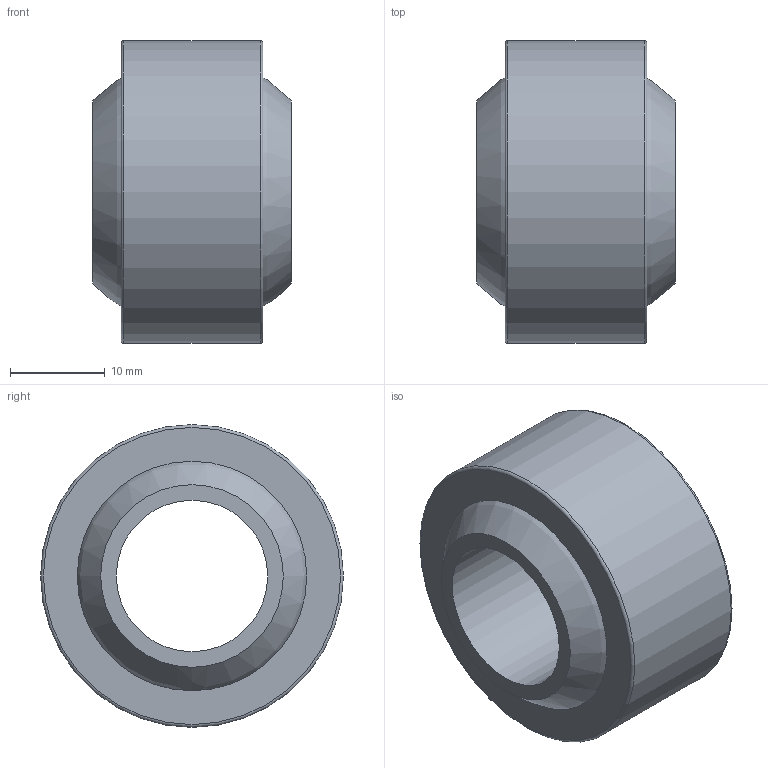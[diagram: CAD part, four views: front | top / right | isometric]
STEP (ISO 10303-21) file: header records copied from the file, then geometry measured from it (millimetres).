
FILE_DESCRIPTION( ( 'STEP AP203' ), '1' );
FILE_NAME( 'C:/Temp/Ganter_Step_05_03_2020/data/3_6/gn_648_8/gn_648_8_w/Ball joint GN 648.8-16-32-W.stp', '2020-03-12T14:14:31', ( 'License CC BY-ND 4.0' ), ( 'CADENAS' ), ' ', 'PARTsolutions', ' ' );
FILE_SCHEMA( ( 'CONFIG_CONTROL_DESIGN' ) );
Length unit declared in the file: millimetre
Products named in the file (3): Ball joint GN 648.8-16-32-W; _Ball joint GN 648.8-16-32-W-2; _Ball joint GN 648.8-16-32-W-1
Assembly tree (2 placements, depth 2):
  Ball joint GN 648.8-16-32-W
    _Ball joint GN 648.8-16-32-W-2
    _Ball joint GN 648.8-16-32-W-1
Bounding box: 21 x 32 x 32 mm (x, y, z)
Volume: 10129.6 mm3; surface area: 6630.2 mm2
Topology: 2 solids, 2 shells, 10 faces, 16 edges, 10 vertices
Faces by surface type: plane 4, sphere 2, torus 2, cylinder 2
Full cylindrical faces by diameter (mm): 16 x1, 32 x1
Entity records: 320 total; most frequent: DIRECTION 46, CARTESIAN_POINT 33, AXIS2_PLACEMENT_3D 23, EDGE_LOOP 20, ORIENTED_EDGE 20, FACE_OUTER_BOUND 16, CC_DESIGN_PERSON_AND_ORGANIZATION_ASSIGNMENT 13, ADVANCED_FACE 10
